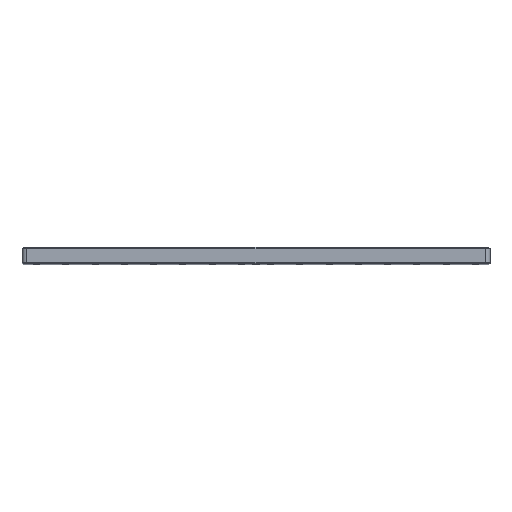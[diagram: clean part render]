
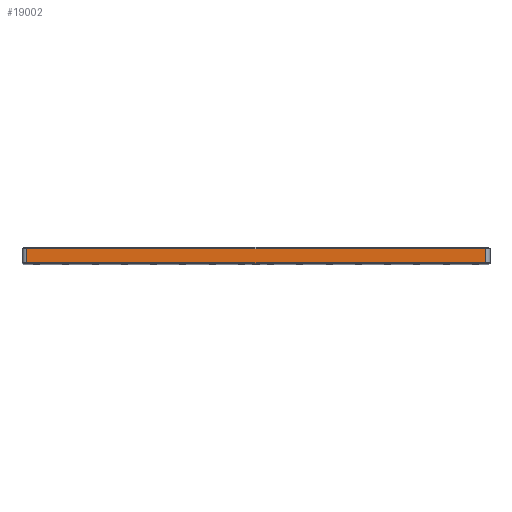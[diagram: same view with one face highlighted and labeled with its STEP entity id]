
A CAD part, top view. The second image highlights one B-rep face of the part: STEP entity #19002.
In plain terms, the highlighted planar face has unit normal (0, 0, 1).
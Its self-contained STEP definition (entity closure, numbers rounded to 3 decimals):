
#5357=DIRECTION('',(1.,0.,0.));
#5358=VECTOR('',#5357,392.);
#5359=CARTESIAN_POINT('',(-196.,13.,200.));
#5360=LINE('',#5359,#5358);
#5361=DIRECTION('',(0.,-1.,0.));
#5362=VECTOR('',#5361,12.);
#5363=CARTESIAN_POINT('',(196.,13.,200.));
#5364=LINE('',#5363,#5362);
#5365=DIRECTION('',(-1.,0.,0.));
#5366=VECTOR('',#5365,392.);
#5367=CARTESIAN_POINT('',(196.,1.,200.));
#5368=LINE('',#5367,#5366);
#5369=DIRECTION('',(0.,-1.,0.));
#5370=VECTOR('',#5369,12.);
#5371=CARTESIAN_POINT('',(-196.,13.,200.));
#5372=LINE('',#5371,#5370);
#13475=CARTESIAN_POINT('',(196.,13.,200.));
#13477=VERTEX_POINT('',#13475);
#13501=CARTESIAN_POINT('',(-196.,13.,200.));
#13502=VERTEX_POINT('',#13501);
#13507=CARTESIAN_POINT('',(-196.,1.,200.));
#13509=VERTEX_POINT('',#13507);
#13533=CARTESIAN_POINT('',(196.,1.,200.));
#13534=VERTEX_POINT('',#13533);
#18988=CARTESIAN_POINT('',(-200.,0.,200.));
#18989=DIRECTION('',(0.,0.,1.));
#18990=DIRECTION('',(1.,0.,0.));
#18991=AXIS2_PLACEMENT_3D('',#18988,#18989,#18990);
#18992=PLANE('',#18991);
#18993=ORIENTED_EDGE('',*,*,#18982,.T.);
#18995=ORIENTED_EDGE('',*,*,#18994,.T.);
#18997=ORIENTED_EDGE('',*,*,#18996,.T.);
#18999=ORIENTED_EDGE('',*,*,#18998,.F.);
#19000=EDGE_LOOP('',(#18993,#18995,#18997,#18999));
#19001=FACE_OUTER_BOUND('',#19000,.F.);
#19002=ADVANCED_FACE('',(#19001),#18992,.T.);
#18982=EDGE_CURVE('',#13502,#13477,#5360,.T.);
#18994=EDGE_CURVE('',#13477,#13534,#5364,.T.);
#18996=EDGE_CURVE('',#13534,#13509,#5368,.T.);
#18998=EDGE_CURVE('',#13502,#13509,#5372,.T.);
